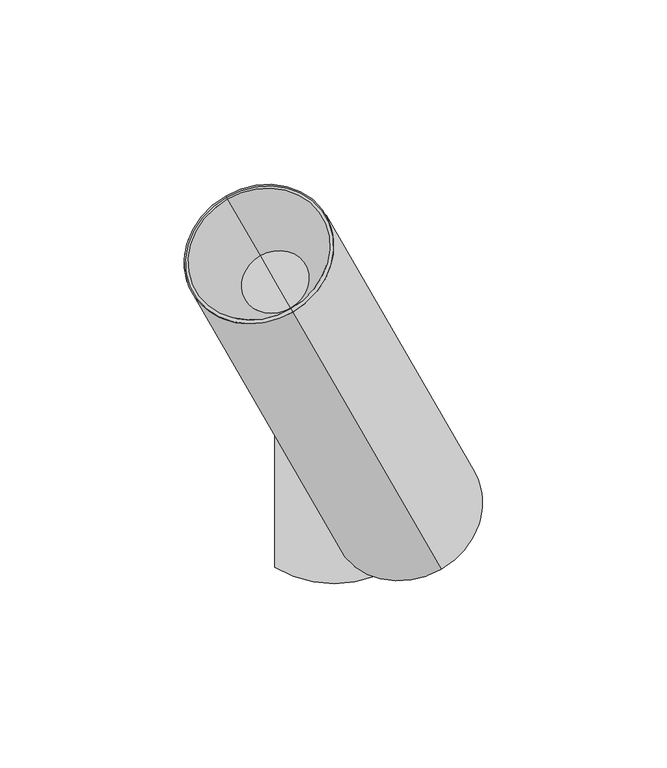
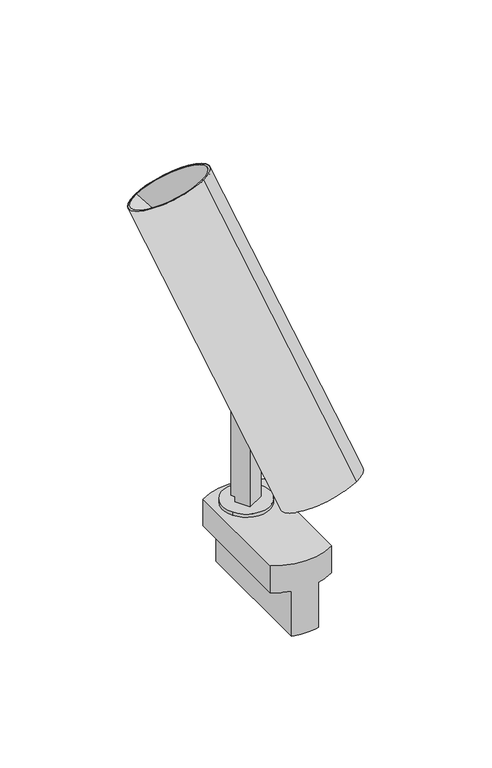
"""IFC4 building model written with IfcOpenShell, lengths in millimetres: light fixture geometry, PIPES T XS : 490lm 7,8W 930 38°."""

import ifcopenshell
import ifcopenshell.guid

model = None  # the IFC model being written
_history = None  # IfcOwnerHistory: only IFC2X3 demands one
_inside = {}  # id of a spatial element -> (the spatial element, [elements in it])
_under = {}  # id of a project, library or spatial element -> (it, [spatial elements below it])
_declared = {}  # id of a project -> (the project, [libraries it declares])
_typed = {}  # id of a type object -> (the type object, [elements of that type])
_made_of = {}  # id of a material, layer set ... -> (it, [elements and type objects made of it])


def new_model(schema):
    """Start an empty IFC model of exactly this schema.

    Asked for "IFC4X3", IfcOpenShell would pick the latest addendum, in which some entities
    have other attributes; the version numbers below select the first issue.
    IFC2X3 requires an IfcOwnerHistory on every rooted entity: one is made here for all.
    """
    global model, _history
    if schema == "IFC4X3":
        model = ifcopenshell.file(schema_version=(4, 3, 0, 0))
    else:
        model = ifcopenshell.file(schema=schema)
    _inside.clear()
    _under.clear()
    _declared.clear()
    _typed.clear()
    _made_of.clear()
    _history = None
    if model.schema == "IFC2X3":
        org = make("IfcOrganization", Name="unknown")
        user = make(
            "IfcPersonAndOrganization",
            ThePerson=make("IfcPerson", FamilyName="unknown"),
            TheOrganization=org,
        )
        app = make(
            "IfcApplication",
            ApplicationDeveloper=org,
            Version="unknown",
            ApplicationFullName="unknown",
            ApplicationIdentifier="unknown",
        )
        _history = make(
            "IfcOwnerHistory",
            OwningUser=user,
            OwningApplication=app,
            ChangeAction="ADDED",
            CreationDate=0,
        )
    return model


def make(cls, **values):
    """One entity of the class cls with the attributes given. An attribute that is None is left unset."""
    return model.create_entity(
        cls, **{name: value for name, value in values.items() if value is not None}
    )


def rooted(cls, **values):
    """An entity with a GlobalId (a new one), such as an element, a storey or a relation."""
    return make(cls, GlobalId=ifcopenshell.guid.new(), OwnerHistory=_history, **values)


def si_unit(unit_type, name, prefix=None):
    """IfcSIUnit, for example si_unit("LENGTHUNIT", "METRE", prefix="MILLI")."""
    return make("IfcSIUnit", UnitType=unit_type, Prefix=prefix, Name=name)


def assignment(units):
    """IfcUnitAssignment: the units of a project."""
    return None if units is None else make("IfcUnitAssignment", Units=units)


def point(xyz):
    """IfcCartesianPoint."""
    return None if xyz is None else make("IfcCartesianPoint", Coordinates=xyz)


def direction(xyz):
    """IfcDirection."""
    return None if xyz is None else make("IfcDirection", DirectionRatios=xyz)


def frame(location, z_axis=None, x_axis=None):
    """IfcAxis2Placement3D, a coordinate frame: its origin and axes. An axis left out is left unset."""
    return make(
        "IfcAxis2Placement3D",
        Location=point(location),
        Axis=direction(z_axis),
        RefDirection=direction(x_axis),
    )


def frame_2d(location, x_axis=None):
    """IfcAxis2Placement2D, a coordinate frame in the plane: its origin and x axis."""
    return make(
        "IfcAxis2Placement2D", Location=point(location), RefDirection=direction(x_axis)
    )


def origin():
    """The frame at (0, 0, 0) with its axes left unset."""
    return frame((0.0, 0.0, 0.0))


def origin_2d():
    """The frame at (0, 0) in the plane with its x axis left unset."""
    return frame_2d((0.0, 0.0))


def place(relative_to, where):
    """IfcLocalPlacement: puts the frame where relative to a parent placement (None: the world)."""
    return make(
        "IfcLocalPlacement", PlacementRelTo=relative_to, RelativePlacement=where
    )


def context(
    kind, dimensions, precision=None, world=None, true_north=None, identifier=None
):
    """IfcGeometricRepresentationContext, for example the 3D "Model" context."""
    return make(
        "IfcGeometricRepresentationContext",
        ContextIdentifier=identifier,
        ContextType=kind,
        CoordinateSpaceDimension=dimensions,
        Precision=precision,
        WorldCoordinateSystem=world,
        TrueNorth=true_north,
    )


def project(units=None, contexts=None):
    """IfcProject with its units and contexts."""
    return rooted(
        "IfcProject",
        Name="project",
        RepresentationContexts=contexts,
        UnitsInContext=assignment(units),
    )


def spatial(cls, under=None, at=None, **own):
    """A site, building, storey or space (cls), placed at a placement, below another one or the project."""
    s = rooted(cls, ObjectPlacement=at, **own)
    if under is not None:
        _under.setdefault(under.id(), (under, []))[1].append(s)
    return s


def polyline(points):
    """IfcPolyline through the points."""
    return make("IfcPolyline", Points=[point(p) for p in points])


def circle_curve(where, radius):
    """IfcCircle in the frame where."""
    return make("IfcCircle", Position=where, Radius=radius)


def trimmed(basis, trim1, trim2, sense, master):
    """IfcTrimmedCurve: the piece of a basis curve between two trims."""
    return make(
        "IfcTrimmedCurve",
        BasisCurve=basis,
        Trim1=trim1,
        Trim2=trim2,
        SenseAgreement=sense,
        MasterRepresentation=master,
    )


def segment(curve, same_sense, transition):
    """IfcCompositeCurveSegment."""
    return make(
        "IfcCompositeCurveSegment",
        Transition=transition,
        SameSense=same_sense,
        ParentCurve=curve,
    )


def composite_curve(segments, self_intersect=None):
    """IfcCompositeCurve: segments joined end to end."""
    return make("IfcCompositeCurve", Segments=segments, SelfIntersect=self_intersect)


def outline(outer, holes=None, kind="AREA"):
    """IfcArbitraryClosedProfileDef: a profile drawn as a closed curve; with holes, ...WithVoids."""
    if holes is None:
        return make("IfcArbitraryClosedProfileDef", ProfileType=kind, OuterCurve=outer)
    return make(
        "IfcArbitraryProfileDefWithVoids",
        ProfileType=kind,
        OuterCurve=outer,
        InnerCurves=holes,
    )


def extrude(swept, where, along, depth):
    """IfcExtrudedAreaSolid: the profile swept, set in the frame where, extruded along a direction by depth."""
    return make(
        "IfcExtrudedAreaSolid",
        SweptArea=swept,
        Position=where,
        ExtrudedDirection=direction(along),
        Depth=depth,
    )


def shape(context_of_items, identifier, shape_type, items):
    """IfcShapeRepresentation: the items that make up one representation, for example the "Body"."""
    return make(
        "IfcShapeRepresentation",
        ContextOfItems=context_of_items,
        RepresentationIdentifier=identifier,
        RepresentationType=shape_type,
        Items=items,
    )


def source(mapping_origin, context_of_items, identifier, shape_type, items):
    """IfcRepresentationMap: a shape defined once, which mapped items show again and again."""
    return make(
        "IfcRepresentationMap",
        MappingOrigin=mapping_origin,
        MappedRepresentation=shape(context_of_items, identifier, shape_type, items),
    )


def transform(
    local_origin,
    x_axis=None,
    y_axis=None,
    z_axis=None,
    scale=None,
    scale2=None,
    scale3=None,
    uniform=True,
):
    """IfcCartesianTransformationOperator3D, or its non-uniform kind. x_axis, y_axis, z_axis: its Axis1, 2, 3."""
    if uniform:
        return make(
            "IfcCartesianTransformationOperator3D",
            Axis1=direction(x_axis),
            Axis2=direction(y_axis),
            LocalOrigin=point(local_origin),
            Scale=scale,
            Axis3=direction(z_axis),
        )
    return make(
        "IfcCartesianTransformationOperator3DnonUniform",
        Axis1=direction(x_axis),
        Axis2=direction(y_axis),
        LocalOrigin=point(local_origin),
        Scale=scale,
        Axis3=direction(z_axis),
        Scale2=scale2,
        Scale3=scale3,
    )


def mapped(mapping_source, mapping_target):
    """IfcMappedItem: shows the shape of a source again, moved by a transform."""
    return make(
        "IfcMappedItem", MappingSource=mapping_source, MappingTarget=mapping_target
    )


def made_of(thing, what):
    """Note that an element or type object is made of a material, layer set ...; save() writes the relation."""
    if what is not None:
        _made_of.setdefault(what.id(), (what, []))[1].append(thing)
    return thing


def element(
    cls,
    number,
    at=None,
    inside=None,
    cuts=None,
    type_object=None,
    material=None,
    context=None,
    identifier="Body",
    shape_type=None,
    held_by="IfcProductDefinitionShape",
    body=None,
    shapes=None,
    **own,
):
    """One element of the class cls, such as IfcWall. Its Tag is "e" and its number.

    at: its placement. inside: the storey or other place that contains it. cuts: it is an
    opening in that element (IfcRelVoidsElement). A single representation is given by context,
    identifier, shape_type and body (its items); several are given by shapes. held_by: the class
    of the entity that holds the representations. save() writes the other relations.
    """
    e = rooted(cls, Tag="e%d" % number, ObjectPlacement=at, **own)
    if body is not None:
        shapes = [shape(context, identifier, shape_type, body)]
    if shapes is not None:
        e.Representation = make(held_by, Representations=shapes)
    if inside is not None:
        _inside.setdefault(inside.id(), (inside, []))[1].append(e)
    if cuts is not None:
        rooted(
            "IfcRelVoidsElement", RelatingBuildingElement=cuts, RelatedOpeningElement=e
        )
    if type_object is not None:
        _typed.setdefault(type_object.id(), (type_object, []))[1].append(e)
    return made_of(e, material)


def aggregate(whole, parts):
    """IfcRelAggregates: a whole, such as a stair, and the parts it consists of."""
    return rooted("IfcRelAggregates", RelatingObject=whole, RelatedObjects=parts)


def save(model, path):
    """Write the relations noted so far, then the file.

    IfcRelAggregates (storeys below a building ...), IfcRelContainedInSpatialStructure (elements
    in a storey), IfcRelDefinesByType, IfcRelAssociatesMaterial and IfcRelDeclares: one each for
    every whole, place, type object, material and project.
    """
    for whole, parts in _under.values():
        aggregate(whole, parts)
    for where, things in _inside.values():
        rooted(
            "IfcRelContainedInSpatialStructure",
            RelatedElements=things,
            RelatingStructure=where,
        )
    for kind, things in _typed.values():
        rooted("IfcRelDefinesByType", RelatedObjects=things, RelatingType=kind)
    for what, things in _made_of.values():
        rooted("IfcRelAssociatesMaterial", RelatedObjects=things, RelatingMaterial=what)
    for by, libraries in _declared.values():
        rooted("IfcRelDeclares", RelatingContext=by, RelatedDefinitions=libraries)
    model.write(path)


def plane_surface(at):
    """IfcPlane: the flat surface through the origin of the frame at, square to its z axis."""
    return make("IfcPlane", Position=at)


def cylinder_surface(at, radius):
    """IfcCylindricalSurface: all points at the distance radius from the z axis of the frame at."""
    return make("IfcCylindricalSurface", Position=at, Radius=radius)


def revolved_surface(curve, axis_point, axis_direction):
    """IfcSurfaceOfRevolution: the curve turned about the line through axis_point along axis_direction."""
    return make(
        "IfcSurfaceOfRevolution",
        SweptCurve=make("IfcArbitraryOpenProfileDef", ProfileType="CURVE", Curve=curve),
        AxisPosition=make("IfcAxis1Placement", Location=point(axis_point), Axis=direction(axis_direction)),
    )


def advanced_brep(points, edges, surfaces, faces):
    """IfcAdvancedBrep: a solid bounded by faces that lie on surfaces and meet in shared edges.

    An edge is (start, end): straight between two places in points (the first is 0);
    or (start, end, curve); or (start, end, curve, False) where it runs against its curve.
    A face is (place in surfaces, loops), or (place, loops, False) where it looks against
    its surface's normal. A loop lists edges by number (the first is 1), with a minus sign
    where the edge is run from its end to its start. The first loop is the outer one.
    """
    corners = [point(p) for p in points]
    vertices = [make("IfcVertexPoint", VertexGeometry=c) for c in corners]
    made = []
    for start, end, *more in edges:
        made.append(
            make(
                "IfcEdgeCurve",
                EdgeStart=vertices[start],
                EdgeEnd=vertices[end],
                EdgeGeometry=more[0] if more else make("IfcPolyline", Points=[corners[start], corners[end]]),
                SameSense=more[1] if len(more) > 1 else True,
            )
        )
    hull = []
    for where, loops, *sense in faces:
        bounds = []
        for j, loop in enumerate(loops):
            ring = [make("IfcOrientedEdge", EdgeElement=made[abs(k) - 1], Orientation=k > 0) for k in loop]
            bounds.append(
                make(
                    "IfcFaceOuterBound" if j == 0 else "IfcFaceBound",
                    Bound=make("IfcEdgeLoop", EdgeList=ring),
                    Orientation=True,
                )
            )
        hull.append(make("IfcAdvancedFace", Bounds=bounds, FaceSurface=surfaces[where], SameSense=sense[0] if sense else True))
    return make("IfcAdvancedBrep", Outer=make("IfcClosedShell", CfsFaces=hull))


def light_fixture_576be489(model_context):
    return source(origin(), model_context, "Body", "SolidModel", [
        extrude(outline(composite_curve([segment(polyline([(39.7303383, 0.0), (-8.1822916, 0.0)]), True, "CONTINUOUS"), segment(trimmed(circle_curve(frame_2d((-17.7182036, 2.2388678)), 9.7952104), [point((-8.1822916, 0.0))], [point((-9.8735653, -3.626948))], False, "CARTESIAN"), True, "CONTINUOUS"), segment(polyline([(-9.8735653, -3.626948), (-15.691322, -3.626948)]), True, "CONTINUOUS"), segment(trimmed(circle_curve(frame_2d((-15.691322, 2.0)), 5.626948), [point((-15.691322, -3.626948))], [point((-21.31827, 2.0))], False, "CARTESIAN"), True, "CONTINUOUS"), segment(polyline([(-21.31827, 2.0), (-21.31827, 10.0), (36.7303383, 10.0), (36.7303383, 8.0), (39.7303383, 8.0), (39.7303383, 0.0)]), True, "CONTINUOUS")], self_intersect=False)), frame((-1.830127, -6.830127, 56.5303383), z_axis=(0.8660254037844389, 0.49999999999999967, 0.0), x_axis=(0.0, 0.0, -1.0)), (0.0, 0.0, 1.0), 10.0),
        extrude(outline(composite_curve([segment(trimmed(circle_curve(origin_2d(), 12.5), [point((10.8253175, 6.25))], [point((-10.8253175, -6.25))], False, "CARTESIAN"), True, "CONTINUOUS"), segment(trimmed(circle_curve(origin_2d(), 12.5), [point((-10.8253175, -6.25))], [point((10.8253175, 6.25))], False, "CARTESIAN"), True, "CONTINUOUS")], self_intersect=False)), frame((0.0, 0.0, 15.0), z_axis=(0.0, 0.0, 1.0), x_axis=(1.0, 0.0, 0.0)), (0.0, 0.0, 1.0), 1.8),
        advanced_brep(
        [(-7.1153658, 15.2862846, -25.0), (7.1153658, 15.2862846, -25.0), (7.1153658, -53.3498174, -25.0), (-7.1153658, -53.3498174, -25.0), (-16.1153658, -49.7317664, 15.0), (16.1153658, -49.7317664, 15.0), (16.1153658, 11.6682336, 15.0), (-16.1153658, 11.6682336, 15.0), (-16.1153658, 11.6682336, 0.0), (-16.1153658, -49.7317664, 0.0), (16.1153658, 11.6682336, 0.0), (7.1153658, 15.2862846, 0.0), (-7.1153658, 15.2862846, 0.0), (16.1153658, -49.7317664, 0.0), (-7.1153658, -53.3498174, 0.0), (7.1153658, -53.3498174, 0.0)],
        [
            (0, 1, circle_curve(frame((0.0, -15.4162786, -25.0), z_axis=(0.0, 0.0, -1.0), x_axis=(1.0, 0.0, 0.0)), 31.5162786)),
            (1, 2),
            (2, 3, circle_curve(frame((0.0, -22.6472542, -25.0), z_axis=(0.0, 0.0, -1.0), x_axis=(1.0, 0.0, 0.0)), 31.5162786)),
            (3, 0),
            (4, 5, circle_curve(frame((0.0, -22.6472542, 15.0), z_axis=(0.0, 0.0, 1.0), x_axis=(1.0, 0.0, 0.0)), 31.5162786)),
            (5, 6),
            (6, 7, circle_curve(frame((0.0, -15.4162786, 15.0), z_axis=(0.0, 0.0, 1.0), x_axis=(1.0, 0.0, 0.0)), 31.5162786)),
            (7, 4),
            (7, 8),
            (8, 9),
            (9, 4),
            (6, 10),
            (10, 11, circle_curve(frame((0.0, -15.4162786, 0.0), z_axis=(0.0, 0.0, 1.0), x_axis=(1.0, 0.0, 0.0)), 31.5162786)),
            (11, 1),
            (0, 12),
            (12, 8, circle_curve(frame((0.0, -15.4162786, 0.0), z_axis=(0.0, 0.0, 1.0), x_axis=(1.0, 0.0, 0.0)), 31.5162786)),
            (5, 13),
            (13, 10),
            (9, 14, circle_curve(frame((0.0, -22.6472542, 0.0), z_axis=(0.0, 0.0, 1.0), x_axis=(1.0, 0.0, 0.0)), 31.5162786)),
            (14, 3),
            (2, 15),
            (15, 13, circle_curve(frame((0.0, -22.6472542, 0.0), z_axis=(0.0, 0.0, 1.0), x_axis=(1.0, 0.0, 0.0)), 31.5162786)),
            (12, 14),
            (15, 11),
        ],
        [
            plane_surface(frame((-16.1153658, 11.6883244, -25.0), z_axis=(0.0, 0.0, -1.0), x_axis=(0.0, -1.0, 0.0))),
            plane_surface(frame((-16.1153658, 11.6883244, 15.0), z_axis=(0.0, 0.0, 1.0), x_axis=(0.0, 1.0, 0.0))),
            plane_surface(frame((-16.1153658, -49.7317664, 15.0), z_axis=(-1.0, 0.0, 0.0), x_axis=(0.0, 0.0, -1.0))),
            cylinder_surface(frame((0.0, -15.4162786, -25.0), z_axis=(0.0, 0.0, 1.0), x_axis=(1.0, 0.0, 0.0)), 31.5162786),
            plane_surface(frame((16.1153658, 11.6682336, 15.0), z_axis=(1.0, 0.0, 0.0), x_axis=(0.0, 0.0, -1.0))),
            cylinder_surface(frame((0.0, -22.6472542, -25.0), z_axis=(0.0, 0.0, 1.0), x_axis=(1.0, 0.0, 0.0)), 31.5162786),
            plane_surface(frame((-7.1153658, -58.6979838, 0.0), z_axis=(0.0, 0.0, -1.0), x_axis=(-1.0, 0.0, 0.0))),
            plane_surface(frame((-7.1153658, 21.3020162, 0.0), z_axis=(-1.0, 0.0, 0.0), x_axis=(0.0, 0.0, -1.0))),
            plane_surface(frame((7.1153658, 11.6883244, 0.0), z_axis=(0.0, 0.0, -1.0), x_axis=(0.0, 1.0, 0.0))),
            plane_surface(frame((7.1153658, -58.6979838, 0.0), z_axis=(1.0, 0.0, 0.0), x_axis=(0.0, 0.0, -1.0))),
        ],
        [
            (0, [[1, 2, 3, 4]]),
            (1, [[5, 6, 7, 8]]),
            (2, [[9, 10, 11, -8]]),
            (3, [[12, 13, 14, -1, 15, 16, -9, -7]]),
            (4, [[17, 18, -12, -6]]),
            (5, [[-11, 19, 20, -3, 21, 22, -17, -5]]),
            (6, [[-19, -10, -16, 23]]),
            (7, [[-15, -4, -20, -23]]),
            (8, [[-13, -18, -22, 24]]),
            (9, [[-21, -2, -14, -24]]),
        ],
    ),
        advanced_brep(
        [(5.2451905, 0.9150635, 79.830127), (1.1765694, 7.9621221, 75.132088), (15.4265694, -16.719602, 25.76864), (16.3210763, -18.2689334, 26.8015276), (14.8210763, -15.6708572, 31.99768), (17.9951905, -21.1685843, 35.6628314), (-3.4150635, -4.0849365, 79.830127), (9.3349365, -26.1685843, 35.6628314), (6.1608223, -20.6708572, 31.99768), (7.6608223, -23.2689334, 26.8015276), (6.7663153, -21.719602, 25.76864), (-7.4836847, 2.9621221, 75.132088), (13.6650635, -23.6685843, 35.6628314), (-3.4150635, 5.9150635, 74.830127), (-29.4150635, 50.9483845, 164.896769), (29.02147, -50.2666605, 46.466679), (-11.22853, 19.4483845, 185.896769), (28.1554446, -48.7666605, 45.466679), (26.6554446, -46.1685843, 50.6628314), (18.4282032, -31.9185843, 41.1628314), (-11.3666698, 19.6876495, 164.375299), (-15.6967968, 27.1876495, 159.375299), (-20.0269238, 34.6876495, 154.375299)],
        [
            (0, 1),
            (1, 2),
            (2, 3),
            (3, 4),
            (4, 5),
            (5, 0),
            (6, 7),
            (7, 8),
            (8, 9),
            (9, 10),
            (10, 11),
            (11, 6),
            (5, 12),
            (12, 7),
            (6, 0),
            (11, 13, circle_curve(frame((5.6782032, -9.8349365, 85.330127), z_axis=(0.24999999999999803, -0.43301270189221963, -0.866025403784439), x_axis=(-0.43301270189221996, 0.7500000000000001, -0.4999999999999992)), 21.0)),
            (13, 1, circle_curve(frame((5.6782032, -9.8349365, 85.330127), z_axis=(0.24999999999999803, -0.43301270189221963, -0.866025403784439), x_axis=(-0.43301270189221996, 0.7500000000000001, -0.4999999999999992)), 21.0)),
            (14, 13),
            (10, 15, circle_curve(frame((19.9282032, -34.5166605, 35.966679), z_axis=(-0.24999999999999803, 0.43301270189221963, 0.866025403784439), x_axis=(-0.43301270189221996, 0.7500000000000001, -0.4999999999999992)), 21.0)),
            (15, 16),
            (16, 14, circle_curve(frame((-20.3217968, 35.1983845, 175.396769), z_axis=(0.24999999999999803, -0.43301270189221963, -0.866025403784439), x_axis=(-0.43301270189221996, 0.7500000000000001, -0.4999999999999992)), 21.0)),
            (15, 2, circle_curve(frame((19.9282032, -34.5166605, 35.966679), z_axis=(-0.24999999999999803, 0.43301270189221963, 0.866025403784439), x_axis=(-0.43301270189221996, 0.7500000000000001, -0.4999999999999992)), 21.0)),
            (14, 16, circle_curve(frame((-20.3217968, 35.1983845, 175.396769), z_axis=(0.24999999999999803, -0.43301270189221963, -0.866025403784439), x_axis=(-0.43301270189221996, 0.7500000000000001, -0.4999999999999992)), 21.0)),
            (9, 17, circle_curve(frame((19.9282032, -34.5166605, 35.966679), z_axis=(-0.24999999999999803, 0.43301270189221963, 0.866025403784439), x_axis=(-0.43301270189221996, 0.7500000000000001, -0.4999999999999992)), 19.0)),
            (17, 15),
            (17, 3, circle_curve(frame((19.9282032, -34.5166605, 35.966679), z_axis=(-0.24999999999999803, 0.43301270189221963, 0.866025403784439), x_axis=(-0.43301270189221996, 0.7500000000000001, -0.4999999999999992)), 19.0)),
            (8, 18, circle_curve(frame((18.4282032, -31.9185843, 41.1628314), z_axis=(-0.24999999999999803, 0.43301270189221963, 0.866025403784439), x_axis=(-0.43301270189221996, 0.7500000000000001, -0.4999999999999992)), 19.0)),
            (18, 17),
            (18, 4, circle_curve(frame((18.4282032, -31.9185843, 41.1628314), z_axis=(-0.24999999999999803, 0.43301270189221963, 0.866025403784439), x_axis=(-0.43301270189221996, 0.7500000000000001, -0.4999999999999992)), 19.0)),
            (12, 19),
            (19, 18),
            (20, 21),
            (21, 22),
            (22, 20, circle_curve(frame((-15.6967968, 27.1876495, 159.375299), z_axis=(-0.24999999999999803, 0.43301270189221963, 0.866025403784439), x_axis=(-0.43301270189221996, 0.7500000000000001, -0.4999999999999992)), 10.0)),
            (20, 22, circle_curve(frame((-15.6967968, 27.1876495, 159.375299), z_axis=(-0.24999999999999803, 0.43301270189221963, 0.866025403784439), x_axis=(-0.43301270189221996, 0.7500000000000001, -0.4999999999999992)), 10.0)),
            (16, 20),
            (22, 14),
        ],
        [
            plane_surface(frame((5.2451905, 0.9150635, 79.830127), z_axis=(-0.8660254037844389, -0.49999999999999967, 0.0), x_axis=(-0.2499999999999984, 0.4330127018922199, 0.8660254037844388))),
            plane_surface(frame((-3.4150635, -4.0849365, 79.830127), z_axis=(0.8660254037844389, 0.49999999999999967, 0.0), x_axis=(0.2499999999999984, -0.4330127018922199, -0.8660254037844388))),
            plane_surface(frame((-3.4150635, -4.0849365, 79.830127), z_axis=(-0.4330127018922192, 0.7500000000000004, -0.4999999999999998), x_axis=(0.8660254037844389, 0.49999999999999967, 0.0))),
            plane_surface(frame((-12.0753175, 10.9150635, 69.830127), z_axis=(0.2499999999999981, -0.4330127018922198, -0.8660254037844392), x_axis=(0.866025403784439, 0.4999999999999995, 0.0))),
            cylinder_surface(frame((22.0412985, -38.1766488, 28.6467024), z_axis=(0.24999999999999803, -0.43301270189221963, -0.866025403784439), x_axis=(-0.43301270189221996, 0.7500000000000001, -0.4999999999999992)), 21.0),
            plane_surface(frame((19.9282032, -34.5166605, 35.966679), z_axis=(0.2499999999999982, -0.4330127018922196, -0.8660254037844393), x_axis=(-0.43301270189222, 0.7500000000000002, -0.4999999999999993))),
            revolved_surface(polyline([(11.700961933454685, -20.266660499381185, 26.466679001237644), (10.200961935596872, -17.668584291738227, 31.66283141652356)]), (22.0412985, -38.1766488, 28.6467024), (0.24999999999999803, -0.43301270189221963, -0.866025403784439)),
            plane_surface(frame((18.4282032, -31.9185843, 41.1628314), z_axis=(0.2499999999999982, -0.4330127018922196, -0.8660254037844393), x_axis=(-0.43301270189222, 0.7500000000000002, -0.4999999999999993))),
            plane_surface(frame((-15.6967968, 27.1876495, 159.375299), z_axis=(-0.2499999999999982, 0.4330127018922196, 0.8660254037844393), x_axis=(-0.43301270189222, 0.7500000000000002, -0.4999999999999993))),
            revolved_surface(polyline([(-20.0269238, 34.6876495, 154.375299), (-29.4150635, 50.9483845, 164.896769)]), (22.0412985, -38.1766488, 28.6467024), (0.24999999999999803, -0.43301270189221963, -0.866025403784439)),
        ],
        [
            (0, [[1, 2, 3, 4, 5, 6]]),
            (1, [[7, 8, 9, 10, 11, 12]]),
            (2, [[-6, 13, 14, -7, 15]]),
            (3, [[-12, 16, 17, -1, -15]]),
            (4, [[18, -16, -11, 19, 20, 21]]),
            (4, [[22, -2, -17, -18, 23, -20]]),
            (5, [[-19, -10, 24, 25]]),
            (5, [[26, -3, -22, -25]]),
            (6, [[-24, -9, 27, 28]]),
            (6, [[29, -4, -26, -28]]),
            (7, [[-27, -8, -14, 30, 31]]),
            (7, [[-30, -13, -5, -29, -31]]),
            (8, [[32, 33, 34]]),
            (8, [[-32, 35, -33]]),
            (9, [[36, -34, 37, -21]]),
            (9, [[-37, -35, -36, -23]]),
        ],
    ),
        advanced_brep(
        [(18.9951905, -22.9006351, 32.1987298), (16.7255865, -18.9695657, 29.5780169), (17.2255865, -19.8355911, 27.845966), (19.4951905, -23.7666605, 30.466679), (10.8349365, -28.7666605, 30.466679), (8.5653325, -24.8355911, 27.845966), (8.0653325, -23.9695657, 29.5780169), (10.3349365, -27.9006351, 32.1987298), (15.1650635, -26.2666605, 30.466679), (14.6650635, -25.4006351, 32.1987298), (19.4282032, -33.6506351, 37.6987298), (26.7866667, -46.3958676, 46.1955515), (27.2866667, -47.261893, 44.4635007), (19.9282032, -34.5166605, 35.966679)],
        [
            (0, 1),
            (1, 2),
            (2, 3),
            (3, 0),
            (4, 5),
            (5, 6),
            (6, 7),
            (7, 4),
            (3, 8),
            (8, 4),
            (7, 9),
            (9, 0),
            (10, 9),
            (6, 11, circle_curve(frame((19.4282032, -33.6506351, 37.6987298), z_axis=(-0.24999999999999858, 0.4330127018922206, 0.8660254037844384), x_axis=(-0.43301270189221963, 0.7499999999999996, -0.5000000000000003)), 16.9936434)),
            (11, 10),
            (11, 1, circle_curve(frame((19.4282032, -33.6506351, 37.6987298), z_axis=(-0.24999999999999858, 0.4330127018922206, 0.8660254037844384), x_axis=(-0.43301270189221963, 0.7499999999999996, -0.5000000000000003)), 16.9936434)),
            (5, 12, circle_curve(frame((19.9282032, -34.5166605, 35.966679), z_axis=(-0.24999999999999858, 0.4330127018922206, 0.8660254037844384), x_axis=(-0.43301270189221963, 0.7499999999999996, -0.5000000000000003)), 16.9936434)),
            (12, 11),
            (12, 2, circle_curve(frame((19.9282032, -34.5166605, 35.966679), z_axis=(-0.24999999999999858, 0.4330127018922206, 0.8660254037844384), x_axis=(-0.43301270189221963, 0.7499999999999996, -0.5000000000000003)), 16.9936434)),
            (8, 13),
            (13, 12),
        ],
        [
            plane_surface(frame((5.2451905, 0.9150635, 79.830127), z_axis=(-0.8660254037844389, -0.49999999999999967, 0.0), x_axis=(-0.2499999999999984, 0.4330127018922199, 0.8660254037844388))),
            plane_surface(frame((-3.4150635, -4.0849365, 79.830127), z_axis=(0.8660254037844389, 0.49999999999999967, 0.0), x_axis=(0.2499999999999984, -0.4330127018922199, -0.8660254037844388))),
            plane_surface(frame((-3.4150635, -4.0849365, 79.830127), z_axis=(-0.4330127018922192, 0.7500000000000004, -0.4999999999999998), x_axis=(0.8660254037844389, 0.49999999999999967, 0.0))),
            plane_surface(frame((19.4282032, -33.6506351, 37.6987298), z_axis=(-0.24999999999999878, 0.4330127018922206, 0.8660254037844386), x_axis=(-0.43301270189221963, 0.7499999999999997, -0.5000000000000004))),
            cylinder_surface(frame((-13.0837015, 22.6616358, 150.3232716), z_axis=(0.24999999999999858, -0.4330127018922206, -0.8660254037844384), x_axis=(-0.43301270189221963, 0.7499999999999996, -0.5000000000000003)), 16.9936434),
            plane_surface(frame((19.9282032, -34.5166605, 35.966679), z_axis=(0.24999999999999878, -0.4330127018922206, -0.8660254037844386), x_axis=(-0.43301270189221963, 0.7499999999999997, -0.5000000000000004))),
        ],
        [
            (0, [[1, 2, 3, 4]]),
            (1, [[5, 6, 7, 8]]),
            (2, [[9, 10, -8, 11, 12, -4]]),
            (3, [[13, -11, -7, 14, 15]]),
            (3, [[16, -1, -12, -13, -15]]),
            (4, [[-14, -6, 17, 18]]),
            (4, [[19, -2, -16, -18]]),
            (5, [[-17, -5, -10, 20, 21]]),
            (5, [[-20, -9, -3, -19, -21]]),
        ],
    ),
        advanced_brep(
        [(-11.8629778, 20.5472802, 164.9569125), (-15.9467968, 27.6206622, 160.2413244), (-20.0306158, 34.6940443, 155.5257364), (-11.732305, 20.3209484, 185.3150597), (-28.9112885, 50.0758206, 165.4784783), (-11.22853, 19.4483845, 185.896769), (-29.4150635, 50.9483845, 164.896769), (-11.3666698, 19.6876495, 164.375299), (-20.0269238, 34.6876495, 154.375299), (-15.6967968, 27.1876495, 159.375299)],
        [
            (0, 1),
            (1, 2),
            (2, 0, circle_curve(frame((-15.9467968, 27.6206622, 160.2413244), z_axis=(-0.2499999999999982, 0.4330127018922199, 0.866025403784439), x_axis=(-0.43301270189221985, 0.75, -0.49999999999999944)), 9.431176)),
            (0, 2, circle_curve(frame((-15.9467968, 27.6206622, 160.2413244), z_axis=(-0.2499999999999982, 0.4330127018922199, 0.866025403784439), x_axis=(-0.43301270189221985, 0.75, -0.49999999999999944)), 9.431176)),
            (3, 0),
            (2, 4),
            (4, 3, circle_curve(frame((-20.3217968, 35.1983845, 175.396769), z_axis=(-0.2499999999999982, 0.4330127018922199, 0.866025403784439), x_axis=(-0.43301270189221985, 0.75, -0.49999999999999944)), 19.8365814)),
            (3, 4, circle_curve(frame((-20.3217968, 35.1983845, 175.396769), z_axis=(-0.2499999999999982, 0.4330127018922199, 0.866025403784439), x_axis=(-0.43301270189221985, 0.75, -0.49999999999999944)), 19.8365814)),
            (5, 3),
            (4, 6),
            (6, 5, circle_curve(frame((-20.3217968, 35.1983845, 175.396769), z_axis=(-0.2499999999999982, 0.4330127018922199, 0.866025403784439), x_axis=(-0.43301270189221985, 0.75, -0.49999999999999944)), 21.0)),
            (5, 6, circle_curve(frame((-20.3217968, 35.1983845, 175.396769), z_axis=(-0.2499999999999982, 0.4330127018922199, 0.866025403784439), x_axis=(-0.43301270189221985, 0.75, -0.49999999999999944)), 21.0)),
            (7, 5),
            (6, 8),
            (8, 7, circle_curve(frame((-15.6967968, 27.1876495, 159.375299), z_axis=(-0.2499999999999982, 0.4330127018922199, 0.866025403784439), x_axis=(-0.43301270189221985, 0.75, -0.49999999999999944)), 10.0)),
            (7, 8, circle_curve(frame((-15.6967968, 27.1876495, 159.375299), z_axis=(-0.2499999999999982, 0.4330127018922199, 0.866025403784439), x_axis=(-0.43301270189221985, 0.75, -0.49999999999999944)), 10.0)),
            (9, 7),
            (8, 9),
        ],
        [
            plane_surface(frame((-15.9467968, 27.6206622, 160.2413244), z_axis=(-0.2499999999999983, 0.43301270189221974, 0.866025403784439), x_axis=(-0.4330127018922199, 0.75, -0.4999999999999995))),
            revolved_surface(polyline([(-20.0306158, 34.6940443, 155.5257364), (-28.9112885, 50.0758206, 165.4784783)]), (27.0412985, -46.8369028, 11.3261943), (0.24999999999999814, -0.4330127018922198, -0.8660254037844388)),
            plane_surface(frame((-20.3217968, 35.1983845, 175.396769), z_axis=(-0.2499999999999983, 0.43301270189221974, 0.866025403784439), x_axis=(-0.4330127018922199, 0.75, -0.4999999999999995))),
            revolved_surface(polyline([(-29.4150635, 50.9483845, 164.896769), (-20.0269238, 34.6876495, 154.375299)]), (27.0412985, -46.8369028, 11.3261943), (0.24999999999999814, -0.4330127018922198, -0.8660254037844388)),
            plane_surface(frame((-15.6967968, 27.1876495, 159.375299), z_axis=(0.2499999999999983, -0.43301270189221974, -0.866025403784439), x_axis=(-0.4330127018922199, 0.75, -0.4999999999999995))),
        ],
        [
            (0, [[1, 2, 3]]),
            (0, [[-2, -1, 4]]),
            (1, [[5, -3, 6, 7]]),
            (1, [[-6, -4, -5, 8]]),
            (2, [[9, -7, 10, 11]]),
            (2, [[-10, -8, -9, 12]]),
            (3, [[13, -11, 14, 15]]),
            (3, [[-14, -12, -13, 16]]),
            (4, [[17, -15, 18]]),
            (4, [[-18, -16, -17]]),
        ],
    ),
    ])


if __name__ == "__main__":
    model = new_model("IFC4")
    model_context = context("Model", 3, world=origin())
    ifc_project = project(units=[si_unit("LENGTHUNIT", "METRE", prefix="MILLI")], contexts=[model_context])
    site = spatial("IfcSite", under=ifc_project)
    building = spatial("IfcBuilding", under=site)
    placement = place(None, origin())
    light_fixture_shape = light_fixture_576be489(model_context)
    element("IfcLightFixture", 1, ObjectType="PIPES T XS : 490lm 7,8W 930 38°", at=placement, inside=building, context=model_context, shape_type="MappedRepresentation", body=[
        mapped(light_fixture_shape, transform((0.0, 0.0, 0.0), x_axis=(1.0, 0.0, 0.0), y_axis=(0.0, 1.0, 0.0), z_axis=(0.0, 0.0, 1.0))),
    ])
    save(model, "model.ifc")
